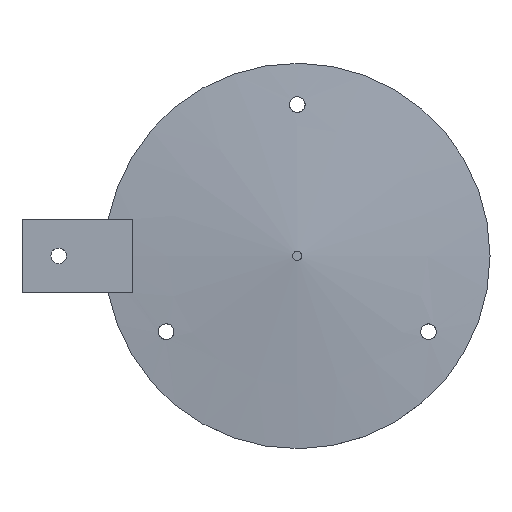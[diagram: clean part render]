
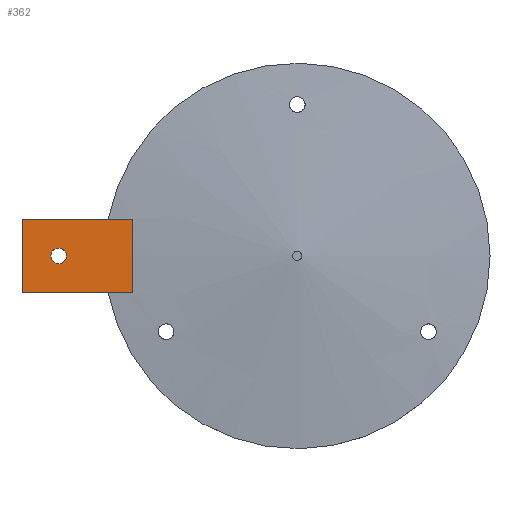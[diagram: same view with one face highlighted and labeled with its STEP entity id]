
A CAD part, top view. The second image highlights one B-rep face of the part: STEP entity #362.
In plain terms, the highlighted planar face has unit normal (0, 0, 1).
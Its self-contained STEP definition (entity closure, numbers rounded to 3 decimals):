
#72 = PLANE('',#73);
#73 = AXIS2_PLACEMENT_3D('',#74,#75,#76);
#74 = CARTESIAN_POINT('',(-60.,-8.,0.));
#75 = DIRECTION('',(0.,1.,0.));
#76 = DIRECTION('',(0.,0.,1.));
#145 = PLANE('',#146);
#146 = AXIS2_PLACEMENT_3D('',#147,#148,#149);
#147 = CARTESIAN_POINT('',(-60.,8.,0.));
#148 = DIRECTION('',(0.,1.,0.));
#149 = DIRECTION('',(0.,0.,1.));
#183 = VERTEX_POINT('',#184);
#184 = CARTESIAN_POINT('',(-60.,8.,5.));
#198 = PLANE('',#199);
#199 = AXIS2_PLACEMENT_3D('',#200,#201,#202);
#200 = CARTESIAN_POINT('',(-60.,-8.,0.));
#201 = DIRECTION('',(1.,0.,0.));
#202 = DIRECTION('',(0.,0.,1.));
#210 = EDGE_CURVE('',#183,#211,#213,.T.);
#211 = VERTEX_POINT('',#212);
#212 = CARTESIAN_POINT('',(-36.,8.,5.));
#213 = SURFACE_CURVE('',#214,(#218,#225),.PCURVE_S1.);
#214 = LINE('',#215,#216);
#215 = CARTESIAN_POINT('',(-60.,8.,5.));
#216 = VECTOR('',#217,1.);
#217 = DIRECTION('',(1.,0.,0.));
#218 = PCURVE('',#145,#219);
#219 = DEFINITIONAL_REPRESENTATION('',(#220),#224);
#220 = LINE('',#221,#222);
#221 = CARTESIAN_POINT('',(5.,0.));
#222 = VECTOR('',#223,1.);
#223 = DIRECTION('',(0.,1.));
#224 = ( GEOMETRIC_REPRESENTATION_CONTEXT(2) 
PARAMETRIC_REPRESENTATION_CONTEXT() REPRESENTATION_CONTEXT('2D SPACE',''
  ) );
#225 = PCURVE('',#226,#231);
#226 = PLANE('',#227);
#227 = AXIS2_PLACEMENT_3D('',#228,#229,#230);
#228 = CARTESIAN_POINT('',(-60.,-8.,5.));
#229 = DIRECTION('',(0.,0.,1.));
#230 = DIRECTION('',(1.,0.,0.));
#231 = DEFINITIONAL_REPRESENTATION('',(#232),#236);
#232 = LINE('',#233,#234);
#233 = CARTESIAN_POINT('',(0.,16.));
#234 = VECTOR('',#235,1.);
#235 = DIRECTION('',(1.,0.));
#236 = ( GEOMETRIC_REPRESENTATION_CONTEXT(2) 
PARAMETRIC_REPRESENTATION_CONTEXT() REPRESENTATION_CONTEXT('2D SPACE',''
  ) );
#254 = PLANE('',#255);
#255 = AXIS2_PLACEMENT_3D('',#256,#257,#258);
#256 = CARTESIAN_POINT('',(-36.,-8.,0.));
#257 = DIRECTION('',(1.,0.,0.));
#258 = DIRECTION('',(0.,0.,1.));
#298 = VERTEX_POINT('',#299);
#299 = CARTESIAN_POINT('',(-60.,-8.,5.));
#342 = EDGE_CURVE('',#298,#183,#343,.T.);
#343 = SURFACE_CURVE('',#344,(#348,#355),.PCURVE_S1.);
#344 = LINE('',#345,#346);
#345 = CARTESIAN_POINT('',(-60.,-8.,5.));
#346 = VECTOR('',#347,1.);
#347 = DIRECTION('',(0.,1.,0.));
#348 = PCURVE('',#198,#349);
#349 = DEFINITIONAL_REPRESENTATION('',(#350),#354);
#350 = LINE('',#351,#352);
#351 = CARTESIAN_POINT('',(5.,0.));
#352 = VECTOR('',#353,1.);
#353 = DIRECTION('',(0.,-1.));
#354 = ( GEOMETRIC_REPRESENTATION_CONTEXT(2) 
PARAMETRIC_REPRESENTATION_CONTEXT() REPRESENTATION_CONTEXT('2D SPACE',''
  ) );
#355 = PCURVE('',#226,#356);
#356 = DEFINITIONAL_REPRESENTATION('',(#357),#361);
#357 = LINE('',#358,#359);
#358 = CARTESIAN_POINT('',(0.,0.));
#359 = VECTOR('',#360,1.);
#360 = DIRECTION('',(0.,1.));
#361 = ( GEOMETRIC_REPRESENTATION_CONTEXT(2) 
PARAMETRIC_REPRESENTATION_CONTEXT() REPRESENTATION_CONTEXT('2D SPACE',''
  ) );
#362 = ADVANCED_FACE('',(#363,#411),#226,.T.);
#363 = FACE_BOUND('',#364,.T.);
#364 = EDGE_LOOP('',(#365,#366,#389,#410));
#365 = ORIENTED_EDGE('',*,*,#342,.F.);
#366 = ORIENTED_EDGE('',*,*,#367,.T.);
#367 = EDGE_CURVE('',#298,#368,#370,.T.);
#368 = VERTEX_POINT('',#369);
#369 = CARTESIAN_POINT('',(-36.,-8.,5.));
#370 = SURFACE_CURVE('',#371,(#375,#382),.PCURVE_S1.);
#371 = LINE('',#372,#373);
#372 = CARTESIAN_POINT('',(-60.,-8.,5.));
#373 = VECTOR('',#374,1.);
#374 = DIRECTION('',(1.,0.,0.));
#375 = PCURVE('',#226,#376);
#376 = DEFINITIONAL_REPRESENTATION('',(#377),#381);
#377 = LINE('',#378,#379);
#378 = CARTESIAN_POINT('',(0.,0.));
#379 = VECTOR('',#380,1.);
#380 = DIRECTION('',(1.,0.));
#381 = ( GEOMETRIC_REPRESENTATION_CONTEXT(2) 
PARAMETRIC_REPRESENTATION_CONTEXT() REPRESENTATION_CONTEXT('2D SPACE',''
  ) );
#382 = PCURVE('',#72,#383);
#383 = DEFINITIONAL_REPRESENTATION('',(#384),#388);
#384 = LINE('',#385,#386);
#385 = CARTESIAN_POINT('',(5.,0.));
#386 = VECTOR('',#387,1.);
#387 = DIRECTION('',(0.,1.));
#388 = ( GEOMETRIC_REPRESENTATION_CONTEXT(2) 
PARAMETRIC_REPRESENTATION_CONTEXT() REPRESENTATION_CONTEXT('2D SPACE',''
  ) );
#389 = ORIENTED_EDGE('',*,*,#390,.T.);
#390 = EDGE_CURVE('',#368,#211,#391,.T.);
#391 = SURFACE_CURVE('',#392,(#396,#403),.PCURVE_S1.);
#392 = LINE('',#393,#394);
#393 = CARTESIAN_POINT('',(-36.,-8.,5.));
#394 = VECTOR('',#395,1.);
#395 = DIRECTION('',(0.,1.,0.));
#396 = PCURVE('',#226,#397);
#397 = DEFINITIONAL_REPRESENTATION('',(#398),#402);
#398 = LINE('',#399,#400);
#399 = CARTESIAN_POINT('',(24.,0.));
#400 = VECTOR('',#401,1.);
#401 = DIRECTION('',(0.,1.));
#402 = ( GEOMETRIC_REPRESENTATION_CONTEXT(2) 
PARAMETRIC_REPRESENTATION_CONTEXT() REPRESENTATION_CONTEXT('2D SPACE',''
  ) );
#403 = PCURVE('',#254,#404);
#404 = DEFINITIONAL_REPRESENTATION('',(#405),#409);
#405 = LINE('',#406,#407);
#406 = CARTESIAN_POINT('',(5.,0.));
#407 = VECTOR('',#408,1.);
#408 = DIRECTION('',(0.,-1.));
#409 = ( GEOMETRIC_REPRESENTATION_CONTEXT(2) 
PARAMETRIC_REPRESENTATION_CONTEXT() REPRESENTATION_CONTEXT('2D SPACE',''
  ) );
#410 = ORIENTED_EDGE('',*,*,#210,.F.);
#411 = FACE_BOUND('',#412,.T.);
#412 = EDGE_LOOP('',(#413));
#413 = ORIENTED_EDGE('',*,*,#414,.T.);
#414 = EDGE_CURVE('',#415,#415,#417,.T.);
#415 = VERTEX_POINT('',#416);
#416 = CARTESIAN_POINT('',(-50.3,0.,5.));
#417 = SURFACE_CURVE('',#418,(#423,#434),.PCURVE_S1.);
#418 = CIRCLE('',#419,1.7);
#419 = AXIS2_PLACEMENT_3D('',#420,#421,#422);
#420 = CARTESIAN_POINT('',(-52.,0.,5.));
#421 = DIRECTION('',(0.,0.,-1.));
#422 = DIRECTION('',(1.,0.,0.));
#423 = PCURVE('',#226,#424);
#424 = DEFINITIONAL_REPRESENTATION('',(#425),#433);
#425 = ( BOUNDED_CURVE() B_SPLINE_CURVE(2,(#426,#427,#428,#429,#430,#431
,#432),.UNSPECIFIED.,.T.,.F.) B_SPLINE_CURVE_WITH_KNOTS((1,2,2,2,2,1),(
    -2.094,0.,2.094,4.189,6.283,
8.378),.UNSPECIFIED.) CURVE() GEOMETRIC_REPRESENTATION_ITEM() 
RATIONAL_B_SPLINE_CURVE((1.,0.5,1.,0.5,1.,0.5,1.)) REPRESENTATION_ITEM(
  '') );
#426 = CARTESIAN_POINT('',(9.7,8.));
#427 = CARTESIAN_POINT('',(9.7,5.056));
#428 = CARTESIAN_POINT('',(7.15,6.528));
#429 = CARTESIAN_POINT('',(4.6,8.));
#430 = CARTESIAN_POINT('',(7.15,9.472));
#431 = CARTESIAN_POINT('',(9.7,10.944));
#432 = CARTESIAN_POINT('',(9.7,8.));
#433 = ( GEOMETRIC_REPRESENTATION_CONTEXT(2) 
PARAMETRIC_REPRESENTATION_CONTEXT() REPRESENTATION_CONTEXT('2D SPACE',''
  ) );
#434 = PCURVE('',#435,#440);
#435 = CYLINDRICAL_SURFACE('',#436,1.7);
#436 = AXIS2_PLACEMENT_3D('',#437,#438,#439);
#437 = CARTESIAN_POINT('',(-52.,0.,-1.));
#438 = DIRECTION('',(-0.,-0.,-1.));
#439 = DIRECTION('',(1.,0.,0.));
#440 = DEFINITIONAL_REPRESENTATION('',(#441),#445);
#441 = LINE('',#442,#443);
#442 = CARTESIAN_POINT('',(-6.283,-6.));
#443 = VECTOR('',#444,1.);
#444 = DIRECTION('',(1.,-0.));
#445 = ( GEOMETRIC_REPRESENTATION_CONTEXT(2) 
PARAMETRIC_REPRESENTATION_CONTEXT() REPRESENTATION_CONTEXT('2D SPACE',''
  ) );
